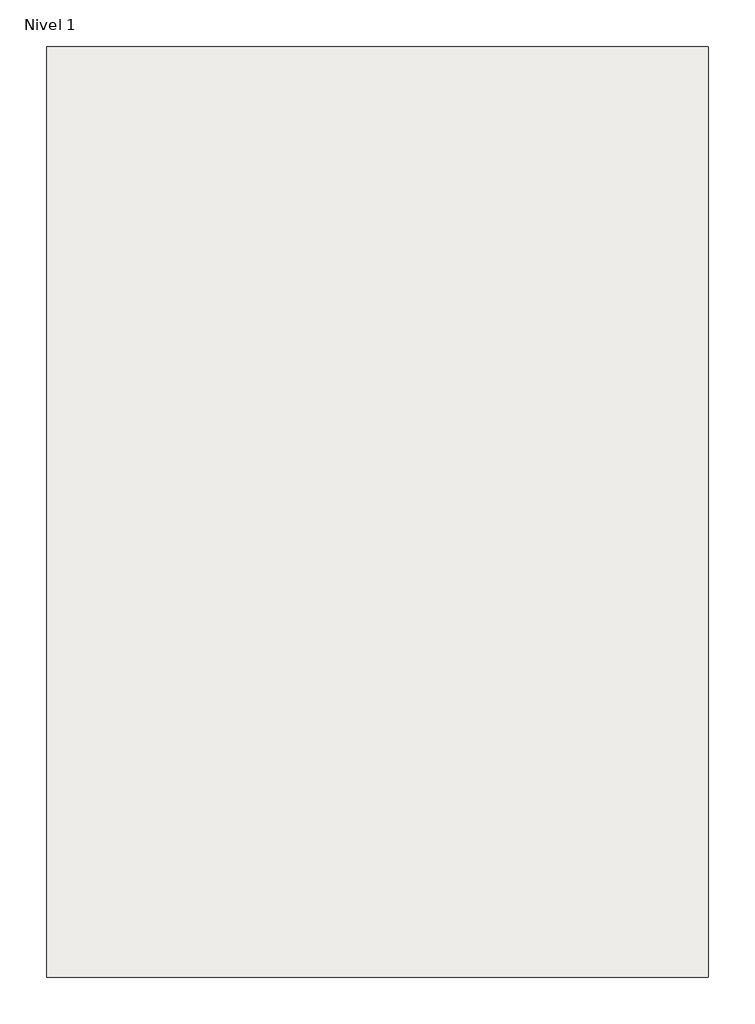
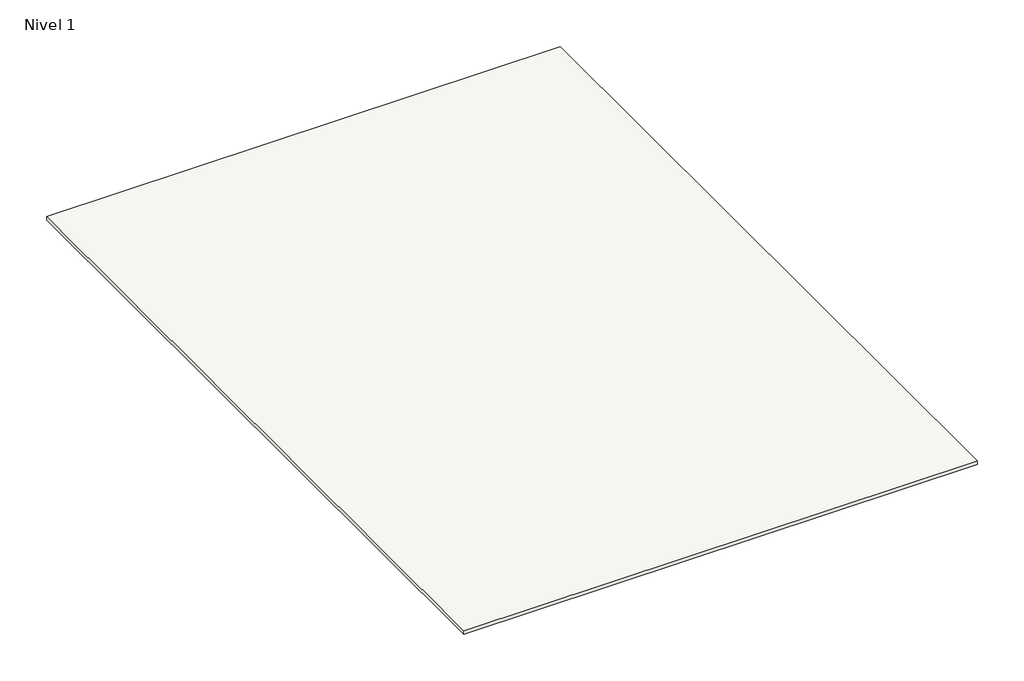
# One storey, incomplete: 1 slab.
"""IFC4 building model written with IfcOpenShell, lengths in millimetres."""

from ifc_helpers import new_model, si_unit, frame, origin, place, context, project, spatial, polyline, outline, extrude, element, save

model = new_model("IFC4")

# Units and contexts
model_context = context("Model", 3, world=origin())
ifc_project = project(units=[si_unit("LENGTHUNIT", "METRE", prefix="MILLI")], contexts=[model_context])

# Site, building, storey
site = spatial("IfcSite", under=ifc_project)
building = spatial("IfcBuilding", under=site)
storey = spatial("IfcBuildingStorey", under=building, Name="Nivel 1", Elevation=0.0)

# Slab
placement = place(None, origin())
element("IfcSlab", 1, ObjectType="Por defecto - 30 cm", at=placement, inside=storey, context=model_context, shape_type="SweptSolid", body=[
    extrude(outline(polyline([(20060.5018965, 13040.8071483), (20060.5018965, -42959.1928517), (-19739.4981035, -42959.1928517), (-19739.4981035, 13040.8071483), (20060.5018965, 13040.8071483)])), frame((0.0, 0.0, -300.0), z_axis=(0.0, 0.0, 1.0), x_axis=(1.0, 0.0, 0.0)), (0.0, 0.0, 1.0), 300.0),
])

save(model, "model.ifc")
